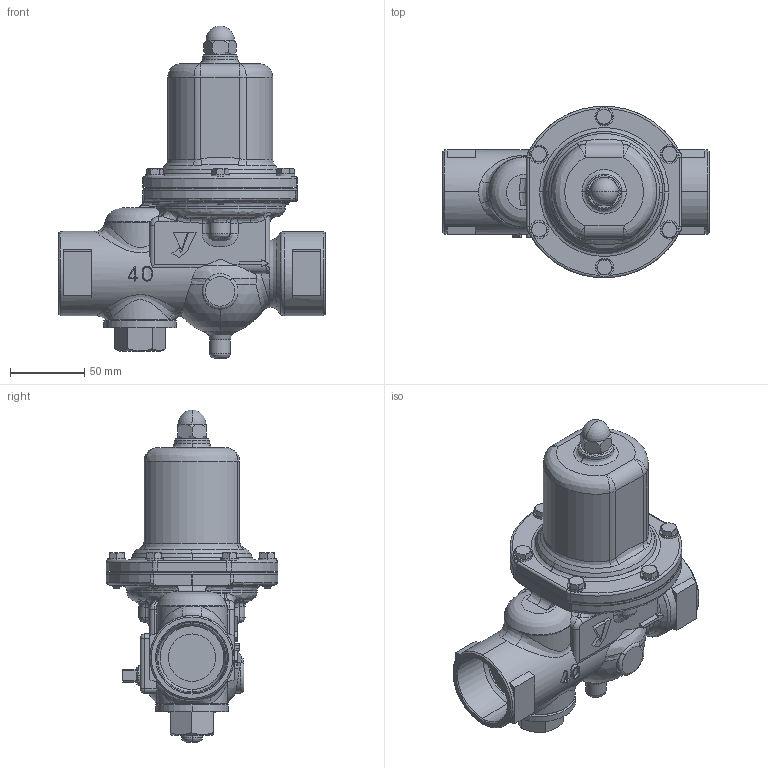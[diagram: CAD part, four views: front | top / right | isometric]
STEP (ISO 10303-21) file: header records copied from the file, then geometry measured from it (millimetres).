
FILE_DESCRIPTION( (''), '2;1');
FILE_NAME ('PC1276.13596.GD-28S-NE 40A_24318.stp','2025-06-10T15:52:58',(''),(''),'spGate 20.6.3 (****-****-****-****)','','');
FILE_SCHEMA (('AUTOMOTIVE_DESIGN'));
Length unit declared in the file: millimetre
Products named in the file (9): Assembly; ダイヤフラム　32-40A; 保護筒 32-40A; ストレーナキャップ32-40A; CP_''_JIS B 1183 六角袋ナット 3形 M''_705; CP_''_JIS B 1180 呼び径六角ボルト''_17166; プラグ3D; CP_平座金(ミ''_JIS B 1256 みがき丸 6_740; GD-28S-NE 40A 弁箱
Assembly tree (20 placements, depth 2):
  Assembly
    ダイヤフラム　32-40A
    保護筒 32-40A
    ストレーナキャップ32-40A
    CP_''_JIS B 1183 六角袋ナット 3形 M''_705
    CP_''_JIS B 1180 呼び径六角ボルト''_17166  x6
    プラグ3D  x3
    CP_平座金(ミ''_JIS B 1256 みがき丸 6_740  x6
    GD-28S-NE 40A 弁箱
Bounding box: 180 x 115.69 x 224.31 mm (x, y, z)
Volume: 1073984.8 mm3; surface area: 155969.2 mm2
Topology: 20 solids, 20 shells, 693 faces, 1649 edges, 1012 vertices
Faces by surface type: bspline 248, plane 232, cylinder 194, sphere 19
Entity records: 31553 total; most frequent: CARTESIAN_POINT 10438, ORIENTED_EDGE 2506, DIRECTION 1988, COLOUR_RGB 1776, PRESENTATION_STYLE_ASSIGNMENT 1776, STYLED_ITEM 1776, EDGE_CURVE 1253, DRAUGHTING_PRE_DEFINED_CURVE_FONT 1253
